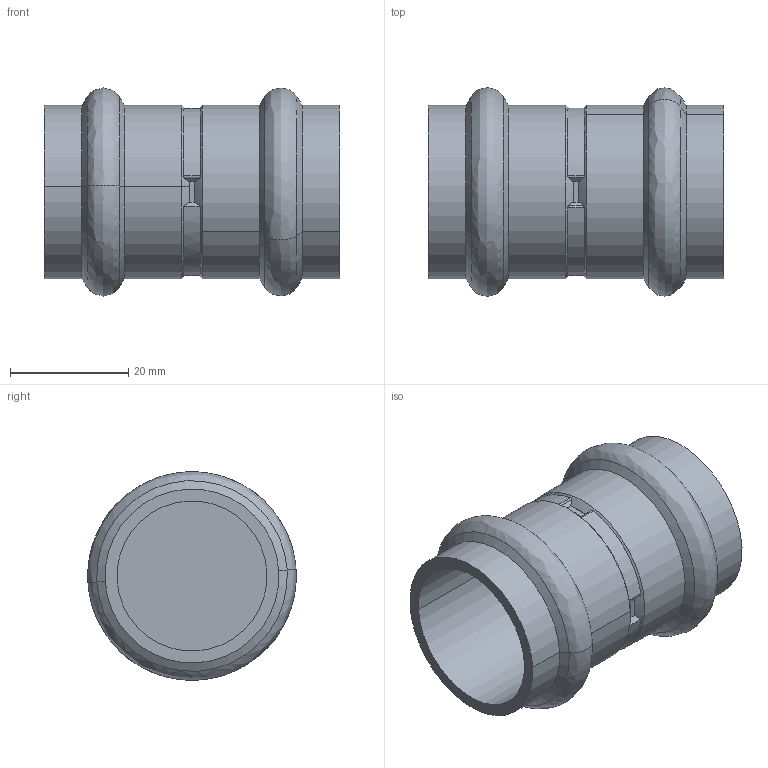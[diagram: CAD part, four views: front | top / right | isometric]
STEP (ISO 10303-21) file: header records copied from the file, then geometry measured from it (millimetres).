
FILE_DESCRIPTION(('STEP AP214'),'1');
FILE_NAME('704339.stp','2025-04-29T09:55:07',('CAD-PIM'),('TransMagic R14'),'Spatial InterOp 3D',' ',' ');
FILE_SCHEMA(('AUTOMOTIVE_DESIGN { 1 0 10303 214 1 1 1 1 }'));
Length unit declared in the file: millimetre
Products named in the file (1): 704339
Bounding box: 50 x 35.22 x 35.2 mm (x, y, z)
Volume: 13551.9 mm3; surface area: 10384.9 mm2
Topology: 1 solids, 1 shells, 63 faces, 158 edges, 99 vertices
Faces by surface type: bspline 63
Entity records: 4008 total; most frequent: CARTESIAN_POINT 974, STYLED_ITEM 321, PRESENTATION_STYLE_ASSIGNMENT 321, COLOUR_RGB 321, ORIENTED_EDGE 316, DIRECTION 162, EDGE_CURVE 158, CURVE_STYLE 158
